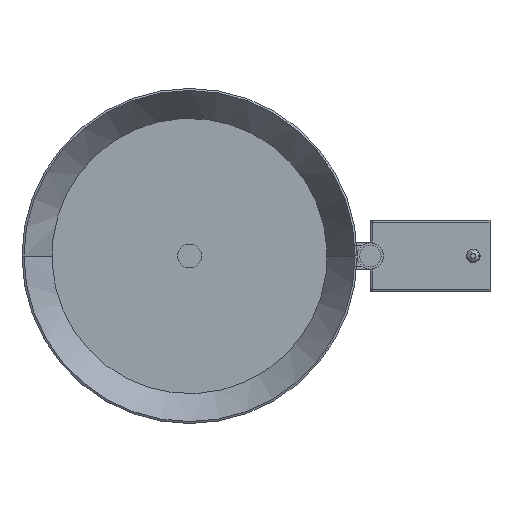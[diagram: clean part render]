
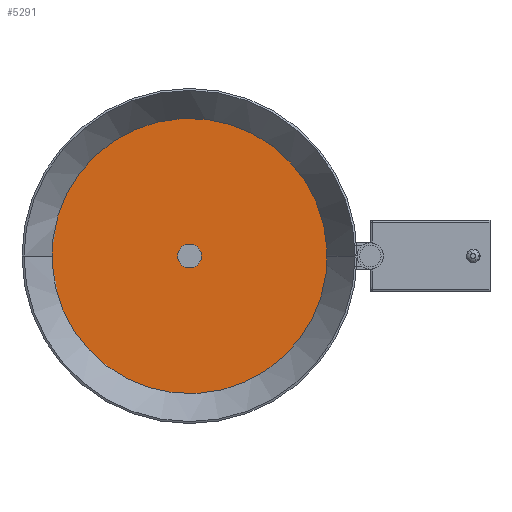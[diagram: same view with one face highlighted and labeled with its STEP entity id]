
A CAD part, front view. The second image highlights one B-rep face of the part: STEP entity #5291.
In plain terms, the highlighted planar face has unit normal (0, -1, 0).
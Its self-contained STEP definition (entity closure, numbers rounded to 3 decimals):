
#330 = CIRCLE ( 'NONE', #4266, 57.5 ) ;
#508 = CIRCLE ( 'NONE', #801, 57.5 ) ;
#636 = DIRECTION ( 'NONE',  ( 0., 0., 1. ) ) ;
#697 = CIRCLE ( 'NONE', #4911, 2.25 ) ;
#747 = EDGE_CURVE ( 'NONE', #5123, #5641, #330, .T. ) ;
#801 = AXIS2_PLACEMENT_3D ( 'NONE', #4302, #3147, #1427 ) ;
#918 = PLANE ( 'NONE',  #1380 ) ;
#1001 = EDGE_CURVE ( 'NONE', #5641, #5123, #508, .T. ) ;
#1293 = EDGE_CURVE ( 'NONE', #1590, #1299, #697, .T. ) ;
#1299 = VERTEX_POINT ( 'NONE', #3678 ) ;
#1380 = AXIS2_PLACEMENT_3D ( 'NONE', #7583, #6962, #4591 ) ;
#1401 = FACE_OUTER_BOUND ( 'NONE', #5818, .T. ) ;
#1427 = DIRECTION ( 'NONE',  ( 0., 0., 1. ) ) ;
#1590 = VERTEX_POINT ( 'NONE', #6992 ) ;
#1760 = EDGE_LOOP ( 'NONE', ( #7509, #5346 ) ) ;
#1906 = DIRECTION ( 'NONE',  ( 0., 1., 0. ) ) ;
#2033 = CARTESIAN_POINT ( 'NONE',  ( 0., 0., 0. ) ) ;
#2501 = DIRECTION ( 'NONE',  ( 0., 0., 1. ) ) ;
#2631 = DIRECTION ( 'NONE',  ( 0., 1., 0. ) ) ;
#3147 = DIRECTION ( 'NONE',  ( 0., 1., 0. ) ) ;
#3678 = CARTESIAN_POINT ( 'NONE',  ( 0., 0., -2.25 ) ) ;
#4266 = AXIS2_PLACEMENT_3D ( 'NONE', #5958, #7173, #636 ) ;
#4302 = CARTESIAN_POINT ( 'NONE',  ( 0., 0., 0. ) ) ;
#4572 = AXIS2_PLACEMENT_3D ( 'NONE', #2033, #2631, #5783 ) ;
#4591 = DIRECTION ( 'NONE',  ( 0., 0., 1. ) ) ;
#4743 = CIRCLE ( 'NONE', #4572, 2.25 ) ;
#4764 = ORIENTED_EDGE ( 'NONE', *, *, #1001, .F. ) ;
#4911 = AXIS2_PLACEMENT_3D ( 'NONE', #4948, #1906, #2501 ) ;
#4948 = CARTESIAN_POINT ( 'NONE',  ( 0., 0., 0. ) ) ;
#5123 = VERTEX_POINT ( 'NONE', #5573 ) ;
#5291 = ADVANCED_FACE ( 'NONE', ( #6164, #1401 ), #918, .F. ) ;
#5346 = ORIENTED_EDGE ( 'NONE', *, *, #5812, .T. ) ;
#5573 = CARTESIAN_POINT ( 'NONE',  ( 0., 0., 57.5 ) ) ;
#5641 = VERTEX_POINT ( 'NONE', #6734 ) ;
#5783 = DIRECTION ( 'NONE',  ( 0., 0., 1. ) ) ;
#5812 = EDGE_CURVE ( 'NONE', #1299, #1590, #4743, .T. ) ;
#5818 = EDGE_LOOP ( 'NONE', ( #4764, #6438 ) ) ;
#5958 = CARTESIAN_POINT ( 'NONE',  ( 0., 0., 0. ) ) ;
#6164 = FACE_BOUND ( 'NONE', #1760, .T. ) ;
#6438 = ORIENTED_EDGE ( 'NONE', *, *, #747, .F. ) ;
#6734 = CARTESIAN_POINT ( 'NONE',  ( 0., 0., -57.5 ) ) ;
#6962 = DIRECTION ( 'NONE',  ( 0., 1., 0. ) ) ;
#6992 = CARTESIAN_POINT ( 'NONE',  ( 0., 0., 2.25 ) ) ;
#7173 = DIRECTION ( 'NONE',  ( 0., 1., 0. ) ) ;
#7509 = ORIENTED_EDGE ( 'NONE', *, *, #1293, .T. ) ;
#7583 = CARTESIAN_POINT ( 'NONE',  ( 0., 0., 0. ) ) ;
